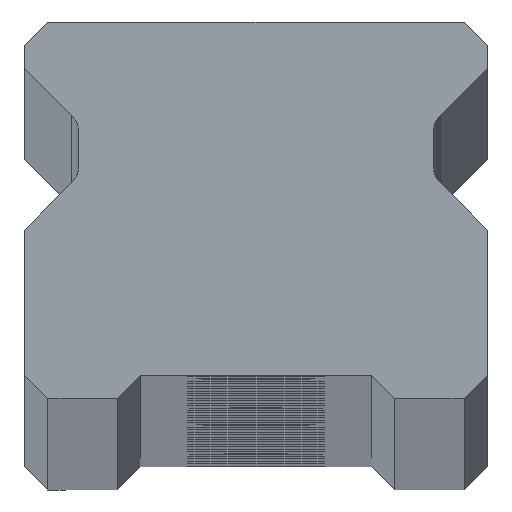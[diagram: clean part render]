
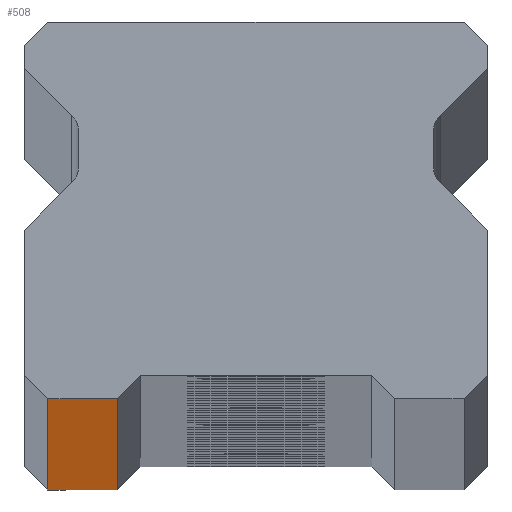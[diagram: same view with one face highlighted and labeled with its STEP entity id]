
A CAD part, top view. The second image highlights one B-rep face of the part: STEP entity #508.
In plain terms, the highlighted planar face has unit normal (0, -1, 0).
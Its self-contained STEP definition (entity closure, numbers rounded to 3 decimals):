
#9 = DIRECTION ( 'NONE',  ( 0., 1., 0. ) ) ;
#214 = VERTEX_POINT ( 'NONE', #1620 ) ;
#219 = DIRECTION ( 'NONE',  ( 0., 0., 1. ) ) ;
#229 = CARTESIAN_POINT ( 'NONE',  ( -9., 0., 1130. ) ) ;
#443 = DIRECTION ( 'NONE',  ( -1., 0., 0. ) ) ;
#484 = LINE ( 'NONE', #3165, #2352 ) ;
#508 = ADVANCED_FACE ( 'NONE', ( #3365 ), #2615, .F. ) ;
#557 = CARTESIAN_POINT ( 'NONE',  ( 10., 0., 1130. ) ) ;
#585 = ORIENTED_EDGE ( 'NONE', *, *, #6355, .T. ) ;
#659 = CARTESIAN_POINT ( 'NONE',  ( -6., 0., -1130. ) ) ;
#1620 = CARTESIAN_POINT ( 'NONE',  ( -6., 0., 1130. ) ) ;
#1841 = VECTOR ( 'NONE', #2587, 1000. ) ;
#2301 = ORIENTED_EDGE ( 'NONE', *, *, #3015, .T. ) ;
#2352 = VECTOR ( 'NONE', #4759, 1000. ) ;
#2476 = DIRECTION ( 'NONE',  ( 1., 0., 0. ) ) ;
#2479 = VERTEX_POINT ( 'NONE', #6347 ) ;
#2587 = DIRECTION ( 'NONE',  ( 1., 0., 0. ) ) ;
#2615 = PLANE ( 'NONE',  #3109 ) ;
#2772 = LINE ( 'NONE', #4064, #3994 ) ;
#3015 = EDGE_CURVE ( 'NONE', #3476, #2479, #2772, .T. ) ;
#3109 = AXIS2_PLACEMENT_3D ( 'NONE', #5170, #9, #443 ) ;
#3165 = CARTESIAN_POINT ( 'NONE',  ( -9., 0., 1130. ) ) ;
#3365 = FACE_OUTER_BOUND ( 'NONE', #5633, .T. ) ;
#3476 = VERTEX_POINT ( 'NONE', #3678 ) ;
#3678 = CARTESIAN_POINT ( 'NONE',  ( -9., 0., -1130. ) ) ;
#3787 = ORIENTED_EDGE ( 'NONE', *, *, #5231, .F. ) ;
#3790 = EDGE_CURVE ( 'NONE', #5637, #3476, #484, .T. ) ;
#3994 = VECTOR ( 'NONE', #2476, 1000. ) ;
#4064 = CARTESIAN_POINT ( 'NONE',  ( 10., 0., -1130. ) ) ;
#4698 = ORIENTED_EDGE ( 'NONE', *, *, #3790, .T. ) ;
#4759 = DIRECTION ( 'NONE',  ( 0., 0., -1. ) ) ;
#4931 = LINE ( 'NONE', #557, #1841 ) ;
#5170 = CARTESIAN_POINT ( 'NONE',  ( 10., 0., 1130. ) ) ;
#5231 = EDGE_CURVE ( 'NONE', #5637, #214, #4931, .T. ) ;
#5480 = LINE ( 'NONE', #659, #6470 ) ;
#5633 = EDGE_LOOP ( 'NONE', ( #2301, #585, #3787, #4698 ) ) ;
#5637 = VERTEX_POINT ( 'NONE', #229 ) ;
#6347 = CARTESIAN_POINT ( 'NONE',  ( -6., 0., -1130. ) ) ;
#6355 = EDGE_CURVE ( 'NONE', #2479, #214, #5480, .T. ) ;
#6470 = VECTOR ( 'NONE', #219, 1000. ) ;
